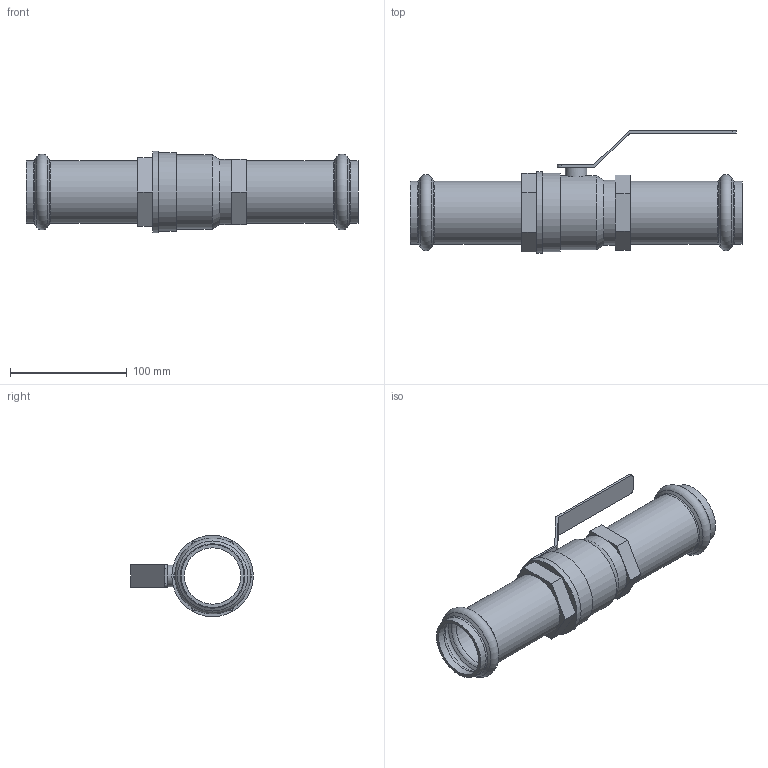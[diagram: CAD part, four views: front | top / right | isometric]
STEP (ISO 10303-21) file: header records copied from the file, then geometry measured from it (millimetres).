
FILE_DESCRIPTION(/* description */ ('VIC-PRESS 304 BRASS BODY BALL VALVE SERIES P589 (P X P)','CAx-IF Rec.Pracs.---Representation and Presentation of Product Manufacturing Information (PMI)---4.0---2014-10-13'),/* implementation_level */ '2;1');
FILE_NAME(/* name */ 'C:\Users\Vjadhav\AppData\Roaming\Autodesk\ApplicationPlugins\Back Up\Victaulic_SS-Vic-Press-TP 304_Valve Ball Brass Body_Series P589 (VP)\Victaulic_SS-Vic-Press-TP 304_Valve Ball Brass Body_Series P589 (VP)_1.5 (40).stp',/* time_stamp */ '2020-08-12T19:25:28+06:00',/* author */ ('cps_temp'),/* organization */ ('Victaulic'),/* preprocessor_version */ 'ST-DEVELOPER v17.2',/* originating_system */ 'Autodesk Inventor 2019',/* authorisation */ '');
FILE_SCHEMA (('AP242_MANAGED_MODEL_BASED_3D_ENGINEERING_MIM_LF { 1 0 10303 442 1 1 4 }'));
Length unit declared in the file: inch
Products named in the file (1): P589-01.5
Bounding box: 283.97 x 104.96 x 69.7 mm (x, y, z)
Volume: 213199.8 mm3; surface area: 109145.1 mm2
Topology: 1 solids, 1 shells, 72 faces, 219 edges, 156 vertices
Faces by surface type: plane 35, cylinder 16, torus 12, cone 9
Full cylindrical faces by diameter (mm): 18.288 x1, 48.26 x3, 53.797 x4, 55.626 x1, 63.354 x1, 67.164 x1, 69.704 x1
Entity records: 2825 total; most frequent: DIRECTION 515, CARTESIAN_POINT 499, ORIENTED_EDGE 438, EDGE_CURVE 219, AXIS2_PLACEMENT_3D 212, VERTEX_POINT 156, CIRCLE 126, LINE 91
